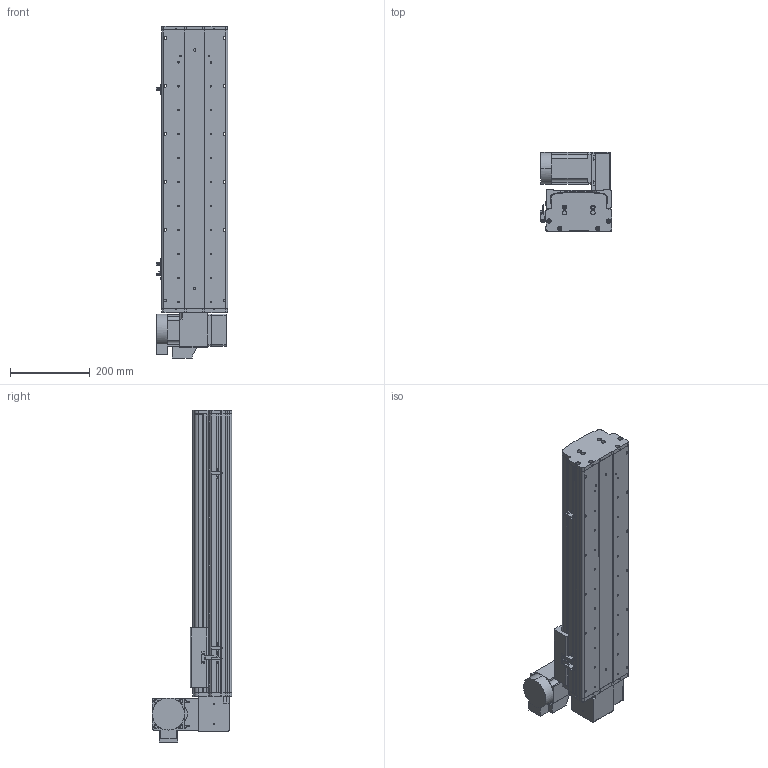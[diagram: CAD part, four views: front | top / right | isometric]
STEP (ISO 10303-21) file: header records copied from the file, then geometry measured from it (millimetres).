
FILE_DESCRIPTION (( 'STEP AP214' ), '1' );
FILE_NAME ('KSD165B-S450-MRU-CM .STEP', '2017-10-17T02:03:12', ( '微软用户' ), ( '微软中国' ), 'SwSTEP 2.0', 'SolidWorks 2014', '' );
FILE_SCHEMA (( 'AUTOMOTIVE_DESIGN' ));
Length unit declared in the file: millimetre
Products named in the file (18): 130宽模组保护罩上下左右折-同步带; HTPA26S5M250-A-H8 750W萇儂蚚; HTPA26S5M250-A-H8 400W萇儂蚚 ; KSD165模组-同步带防尘盖1-450行程-最新版; KSD165模组同步带底板-450行程-最新; 拸秶雄ん750W侜督萇儂; 165宽马达安装板同步带右; U倰嫖萇假蚾璃; U倰嫖萇EEㄜSX672; 覜茼え68遵圉猾敕; KSD165模组-同步带-防撞垫2; KSD165模组同步带-防撞垫1; KSD165耀郪-ヶ傷啣1-肮祭湍; KSD165模组-后端板1-同步带; KSD165模组-防尘板支撑座1; KSD165模组-同步带滑动座-最新版; KSD165B-S450-MRU-CM  ; 130宽模组马达安装板连板上下折丝杆同步带
Assembly tree (21 placements, depth 2):
  KSD165B-S450-MRU-CM  
    KSD165模组-同步带滑动座-最新版
    KSD165模组-防尘板支撑座1
    KSD165模组-后端板1-同步带
    KSD165耀郪-ヶ傷啣1-肮祭湍
    KSD165模组同步带-防撞垫1
    KSD165模组-同步带-防撞垫2
    覜茼え68遵圉猾敕
    U倰嫖萇EEㄜSX672  x3
    U倰嫖萇假蚾璃  x3
    165宽马达安装板同步带右
    拸秶雄ん750W侜督萇儂
    KSD165模组同步带底板-450行程-最新
    KSD165模组-同步带防尘盖1-450行程-最新版
    HTPA26S5M250-A-H8 400W萇儂蚚 
    HTPA26S5M250-A-H8 750W萇儂蚚
    130宽模组保护罩上下左右折-同步带
    130宽模组马达安装板连板上下折丝杆同步带
Bounding box: 178.7 x 198 x 830.5 mm (x, y, z)
Volume: 5448952.6 mm3; surface area: 1260606.9 mm2
Topology: 22 solids, 22 shells, 1919 faces, 5396 edges, 3518 vertices
Faces by surface type: cylinder 1211, plane 592, cone 116
Entity records: 61638 total; most frequent: CARTESIAN_POINT 12571, DIRECTION 10186, ORIENTED_EDGE 9444, EDGE_CURVE 4722, AXIS2_PLACEMENT_3D 3979, VERTEX_POINT 3110, CIRCLE 2256, LINE 2228
